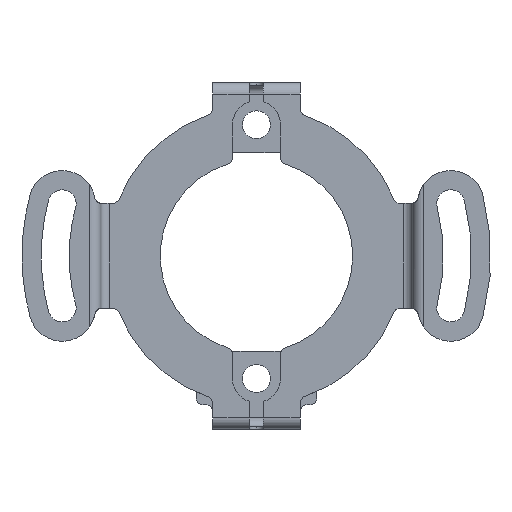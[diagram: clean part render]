
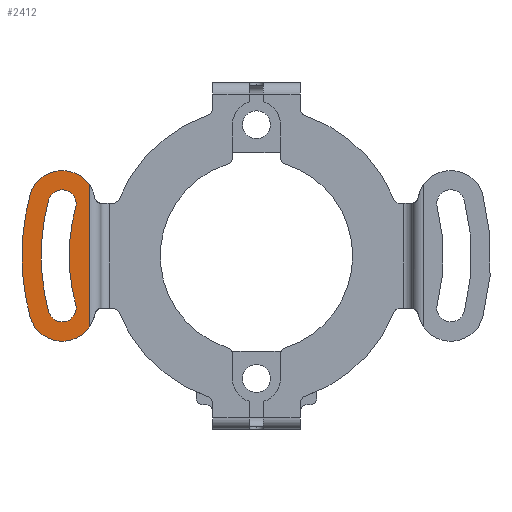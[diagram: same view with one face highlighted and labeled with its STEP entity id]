
A CAD part, top view. The second image highlights one B-rep face of the part: STEP entity #2412.
In plain terms, the highlighted planar face has unit normal (0, 0, 1).
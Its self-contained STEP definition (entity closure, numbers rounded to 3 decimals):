
#160 = CARTESIAN_POINT ( 'NONE',  ( -25.887, 6.936, 5.3 ) ) ;
#161 = DIRECTION ( 'NONE',  ( 1., 0., 0. ) ) ;
#162 = DIRECTION ( 'NONE',  ( 0., 0., 1. ) ) ;
#163 = CARTESIAN_POINT ( 'NONE',  ( -22.216, 5.953, 5.3 ) ) ;
#164 = AXIS2_PLACEMENT_3D ( 'NONE', #163, #162, #161 ) ;
#165 = CIRCLE ( 'NONE', #164, 3.8 ) ;
#258 = CARTESIAN_POINT ( 'NONE',  ( -20.671, 5.539, 5.3 ) ) ;
#315 = CARTESIAN_POINT ( 'NONE',  ( 0., 0., 5.3 ) ) ;
#345 = DIRECTION ( 'NONE',  ( 1., 0., 0. ) ) ;
#346 = DIRECTION ( 'NONE',  ( 0., 0., -1. ) ) ;
#347 = CARTESIAN_POINT ( 'NONE',  ( 0., 0., 5.3 ) ) ;
#348 = AXIS2_PLACEMENT_3D ( 'NONE', #347, #346, #345 ) ;
#397 = DIRECTION ( 'NONE',  ( 1., 0., 0. ) ) ;
#398 = DIRECTION ( 'NONE',  ( 0., 0., 1. ) ) ;
#399 = CARTESIAN_POINT ( 'NONE',  ( -22.216, 5.953, 5.3 ) ) ;
#400 = AXIS2_PLACEMENT_3D ( 'NONE', #399, #398, #397 ) ;
#401 = CIRCLE ( 'NONE', #400, 1.6 ) ;
#402 = DIRECTION ( 'NONE',  ( 1., 0., 0. ) ) ;
#403 = DIRECTION ( 'NONE',  ( 0., 0., 1. ) ) ;
#404 = AXIS2_PLACEMENT_3D ( 'NONE', #315, #403, #402 ) ;
#405 = CIRCLE ( 'NONE', #404, 26.8 ) ;
#407 = CIRCLE ( 'NONE', #348, 21.4 ) ;
#451 = DIRECTION ( 'NONE',  ( 1., 0., 0. ) ) ;
#452 = DIRECTION ( 'NONE',  ( 0., 0., 1. ) ) ;
#453 = AXIS2_PLACEMENT_3D ( 'NONE', #456, #452, #451 ) ;
#454 = FACE_BOUND ( 'NONE', #2346, .T. ) ;
#455 = FACE_OUTER_BOUND ( 'NONE', #2413, .T. ) ;
#456 = CARTESIAN_POINT ( 'NONE',  ( -22.216, 5.953, 5.3 ) ) ;
#457 = PLANE ( 'NONE',  #453 ) ;
#458 = CARTESIAN_POINT ( 'NONE',  ( -22.216, -5.953, 5.3 ) ) ;
#517 = CARTESIAN_POINT ( 'NONE',  ( -19.1, 8.127, 5.3 ) ) ;
#518 = DIRECTION ( 'NONE',  ( 0., 1., 0. ) ) ;
#519 = VECTOR ( 'NONE', #518, 1000. ) ;
#520 = CARTESIAN_POINT ( 'NONE',  ( -19.1, 6., 5.3 ) ) ;
#521 = LINE ( 'NONE', #520, #519 ) ;
#636 = DIRECTION ( 'NONE',  ( 1., 0., 0. ) ) ;
#637 = DIRECTION ( 'NONE',  ( 0., 0., 1. ) ) ;
#638 = AXIS2_PLACEMENT_3D ( 'NONE', #458, #637, #636 ) ;
#639 = CIRCLE ( 'NONE', #638, 3.8 ) ;
#640 = CARTESIAN_POINT ( 'NONE',  ( -19.1, -8.127, 5.3 ) ) ;
#1390 = DIRECTION ( 'NONE',  ( 1., 0., 0. ) ) ;
#1391 = DIRECTION ( 'NONE',  ( 0., 0., 1. ) ) ;
#1392 = CARTESIAN_POINT ( 'NONE',  ( 0., 0., 5.3 ) ) ;
#1393 = AXIS2_PLACEMENT_3D ( 'NONE', #1392, #1391, #1390 ) ;
#1394 = CIRCLE ( 'NONE', #1393, 24.6 ) ;
#1395 = CARTESIAN_POINT ( 'NONE',  ( -23.762, -6.367, 5.3 ) ) ;
#1396 = DIRECTION ( 'NONE',  ( 1., 0., 0. ) ) ;
#1397 = DIRECTION ( 'NONE',  ( 0., 0., 1. ) ) ;
#1398 = CARTESIAN_POINT ( 'NONE',  ( -22.216, -5.953, 5.3 ) ) ;
#1399 = AXIS2_PLACEMENT_3D ( 'NONE', #1398, #1397, #1396 ) ;
#1400 = CIRCLE ( 'NONE', #1399, 1.6 ) ;
#1474 = EDGE_CURVE ( 'NONE', #1488, #1475, #3187, .T. ) ;
#1475 = VERTEX_POINT ( 'NONE', #3182 ) ;
#1488 = VERTEX_POINT ( 'NONE', #3041 ) ;
#1594 = EDGE_CURVE ( 'NONE', #1595, #1596, #3286, .T. ) ;
#1595 = VERTEX_POINT ( 'NONE', #3281 ) ;
#1596 = VERTEX_POINT ( 'NONE', #3323 ) ;
#1608 = EDGE_CURVE ( 'NONE', #1609, #1610, #3389, .T. ) ;
#1609 = VERTEX_POINT ( 'NONE', #3384 ) ;
#1610 = VERTEX_POINT ( 'NONE', #3383 ) ;
#2176 = ORIENTED_EDGE ( 'NONE', *, *, #1474, .F. ) ;
#2177 = ORIENTED_EDGE ( 'NONE', *, *, #2178, .F. ) ;
#2178 = EDGE_CURVE ( 'NONE', #2179, #1488, #1400, .T. ) ;
#2179 = VERTEX_POINT ( 'NONE', #1395 ) ;
#2180 = ORIENTED_EDGE ( 'NONE', *, *, #2181, .F. ) ;
#2181 = EDGE_CURVE ( 'NONE', #1596, #2179, #1394, .T. ) ;
#2304 = ORIENTED_EDGE ( 'NONE', *, *, #2305, .T. ) ;
#2305 = EDGE_CURVE ( 'NONE', #2542, #2306, #165, .T. ) ;
#2306 = VERTEX_POINT ( 'NONE', #160 ) ;
#2307 = ORIENTED_EDGE ( 'NONE', *, *, #2344, .T. ) ;
#2323 = ORIENTED_EDGE ( 'NONE', *, *, #2324, .F. ) ;
#2324 = EDGE_CURVE ( 'NONE', #1475, #2350, #407, .T. ) ;
#2344 = EDGE_CURVE ( 'NONE', #2306, #1609, #405, .T. ) ;
#2345 = ORIENTED_EDGE ( 'NONE', *, *, #1608, .T. ) ;
#2346 = EDGE_LOOP ( 'NONE', ( #2347, #2348, #2323, #2176, #2177, #2180 ) ) ;
#2347 = ORIENTED_EDGE ( 'NONE', *, *, #1594, .F. ) ;
#2348 = ORIENTED_EDGE ( 'NONE', *, *, #2349, .F. ) ;
#2349 = EDGE_CURVE ( 'NONE', #2350, #1595, #401, .T. ) ;
#2350 = VERTEX_POINT ( 'NONE', #258 ) ;
#2412 = ADVANCED_FACE ( 'NONE', ( #455, #454 ), #457, .T. ) ;
#2413 = EDGE_LOOP ( 'NONE', ( #2414, #2417, #2304, #2307, #2345 ) ) ;
#2414 = ORIENTED_EDGE ( 'NONE', *, *, #2415, .T. ) ;
#2415 = EDGE_CURVE ( 'NONE', #1610, #2416, #639, .T. ) ;
#2416 = VERTEX_POINT ( 'NONE', #640 ) ;
#2417 = ORIENTED_EDGE ( 'NONE', *, *, #2541, .T. ) ;
#2541 = EDGE_CURVE ( 'NONE', #2416, #2542, #521, .T. ) ;
#2542 = VERTEX_POINT ( 'NONE', #517 ) ;
#3041 = CARTESIAN_POINT ( 'NONE',  ( -20.671, -5.539, 5.3 ) ) ;
#3182 = CARTESIAN_POINT ( 'NONE',  ( -21.4, 0., 5.3 ) ) ;
#3183 = DIRECTION ( 'NONE',  ( 1., 0., 0. ) ) ;
#3184 = DIRECTION ( 'NONE',  ( 0., 0., -1. ) ) ;
#3185 = CARTESIAN_POINT ( 'NONE',  ( 0., 0., 5.3 ) ) ;
#3186 = AXIS2_PLACEMENT_3D ( 'NONE', #3185, #3184, #3183 ) ;
#3187 = CIRCLE ( 'NONE', #3186, 21.4 ) ;
#3281 = CARTESIAN_POINT ( 'NONE',  ( -23.762, 6.367, 5.3 ) ) ;
#3282 = DIRECTION ( 'NONE',  ( 1., 0., 0. ) ) ;
#3283 = DIRECTION ( 'NONE',  ( 0., 0., 1. ) ) ;
#3284 = CARTESIAN_POINT ( 'NONE',  ( 0., 0., 5.3 ) ) ;
#3285 = AXIS2_PLACEMENT_3D ( 'NONE', #3284, #3283, #3282 ) ;
#3286 = CIRCLE ( 'NONE', #3285, 24.6 ) ;
#3323 = CARTESIAN_POINT ( 'NONE',  ( -24.6, 0., 5.3 ) ) ;
#3383 = CARTESIAN_POINT ( 'NONE',  ( -25.887, -6.936, 5.3 ) ) ;
#3384 = CARTESIAN_POINT ( 'NONE',  ( -26.8, 0., 5.3 ) ) ;
#3385 = DIRECTION ( 'NONE',  ( 1., 0., 0. ) ) ;
#3386 = DIRECTION ( 'NONE',  ( 0., 0., 1. ) ) ;
#3387 = CARTESIAN_POINT ( 'NONE',  ( 0., 0., 5.3 ) ) ;
#3388 = AXIS2_PLACEMENT_3D ( 'NONE', #3387, #3386, #3385 ) ;
#3389 = CIRCLE ( 'NONE', #3388, 26.8 ) ;
